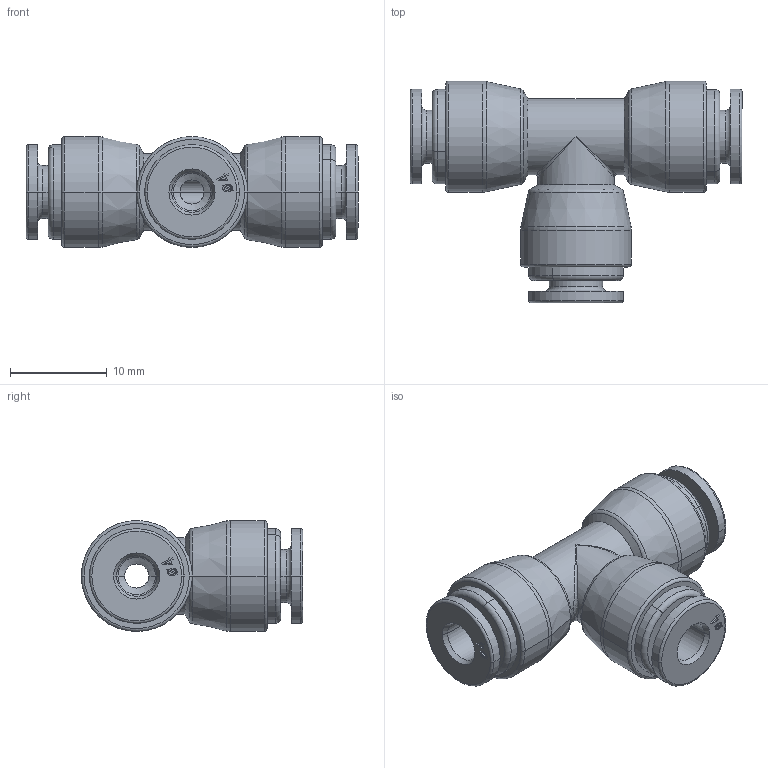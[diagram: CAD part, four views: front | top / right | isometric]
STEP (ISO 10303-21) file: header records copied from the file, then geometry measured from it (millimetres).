
FILE_DESCRIPTION (( 'STEP AP214' ), '1' );
FILE_NAME ('5323000002A.STEP', '2023-03-06T12:49:29', ( '' ), ( '' ), 'SwSTEP 2.0', 'SolidWorks 2020', '' );
FILE_SCHEMA (( 'AUTOMOTIVE_DESIGN' ));
Length unit declared in the file: millimetre
Products named in the file (1): 5323000002A
Bounding box: 34.4 x 22.95 x 11.5 mm (x, y, z)
Volume: 3026.3 mm3; surface area: 2621.7 mm2
Topology: 1 solids, 1 shells, 241 faces, 572 edges, 352 vertices
Faces by surface type: plane 93, bspline 44, torus 42, cylinder 38, cone 24
Entity records: 11097 total; most frequent: CARTESIAN_POINT 3074, ORIENTED_EDGE 1136, DIRECTION 1036, EDGE_CURVE 568, AXIS2_PLACEMENT_3D 366, VERTEX_POINT 352, VECTOR 304, LINE 304
